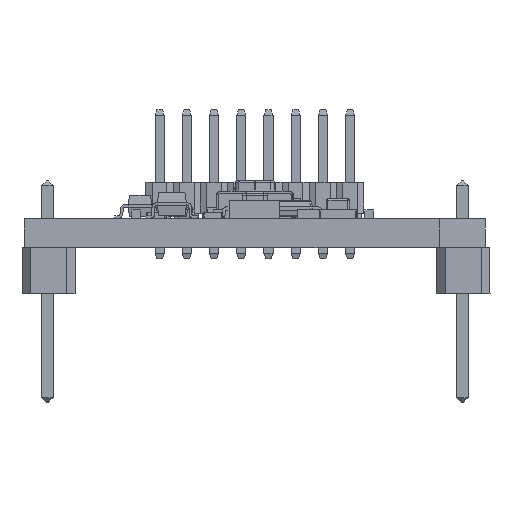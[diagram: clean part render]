
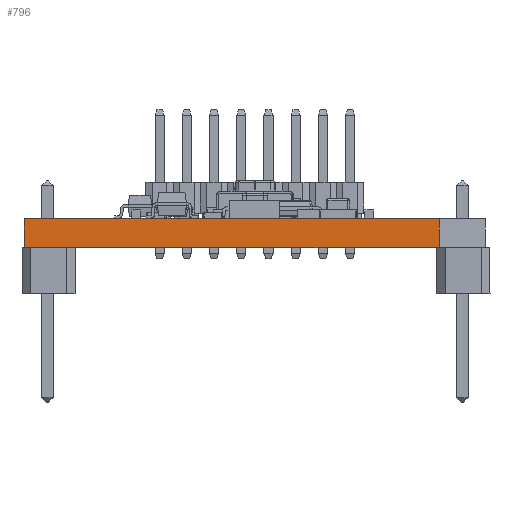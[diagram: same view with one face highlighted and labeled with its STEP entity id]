
A CAD part, front view. The second image highlights one B-rep face of the part: STEP entity #796.
In plain terms, the highlighted planar face has unit normal (0, -1, 0).
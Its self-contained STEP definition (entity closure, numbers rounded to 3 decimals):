
#771 = VERTEX_POINT('',#772);
#772 = CARTESIAN_POINT('',(21.59,-3.81,0.));
#778 = EDGE_CURVE('',#779,#771,#781,.T.);
#779 = VERTEX_POINT('',#780);
#780 = CARTESIAN_POINT('',(21.59,-3.81,-1.59));
#781 = LINE('',#782,#783);
#782 = CARTESIAN_POINT('',(21.59,-3.81,-1.59));
#783 = VECTOR('',#784,1.);
#784 = DIRECTION('',(0.,0.,1.));
#796 = ADVANCED_FACE('',(#797),#822,.T.);
#797 = FACE_BOUND('',#798,.T.);
#798 = EDGE_LOOP('',(#799,#800,#808,#816));
#799 = ORIENTED_EDGE('',*,*,#778,.T.);
#800 = ORIENTED_EDGE('',*,*,#801,.T.);
#801 = EDGE_CURVE('',#771,#802,#804,.T.);
#802 = VERTEX_POINT('',#803);
#803 = CARTESIAN_POINT('',(-1.27,-3.81,0.));
#804 = LINE('',#805,#806);
#805 = CARTESIAN_POINT('',(21.59,-3.81,0.));
#806 = VECTOR('',#807,1.);
#807 = DIRECTION('',(-1.,0.,0.));
#808 = ORIENTED_EDGE('',*,*,#809,.F.);
#809 = EDGE_CURVE('',#810,#802,#812,.T.);
#810 = VERTEX_POINT('',#811);
#811 = CARTESIAN_POINT('',(-1.27,-3.81,-1.59));
#812 = LINE('',#813,#814);
#813 = CARTESIAN_POINT('',(-1.27,-3.81,-1.59));
#814 = VECTOR('',#815,1.);
#815 = DIRECTION('',(0.,0.,1.));
#816 = ORIENTED_EDGE('',*,*,#817,.F.);
#817 = EDGE_CURVE('',#779,#810,#818,.T.);
#818 = LINE('',#819,#820);
#819 = CARTESIAN_POINT('',(21.59,-3.81,-1.59));
#820 = VECTOR('',#821,1.);
#821 = DIRECTION('',(-1.,0.,0.));
#822 = PLANE('',#823);
#823 = AXIS2_PLACEMENT_3D('',#824,#825,#826);
#824 = CARTESIAN_POINT('',(21.59,-3.81,-1.59));
#825 = DIRECTION('',(0.,-1.,0.));
#826 = DIRECTION('',(-1.,0.,0.));
